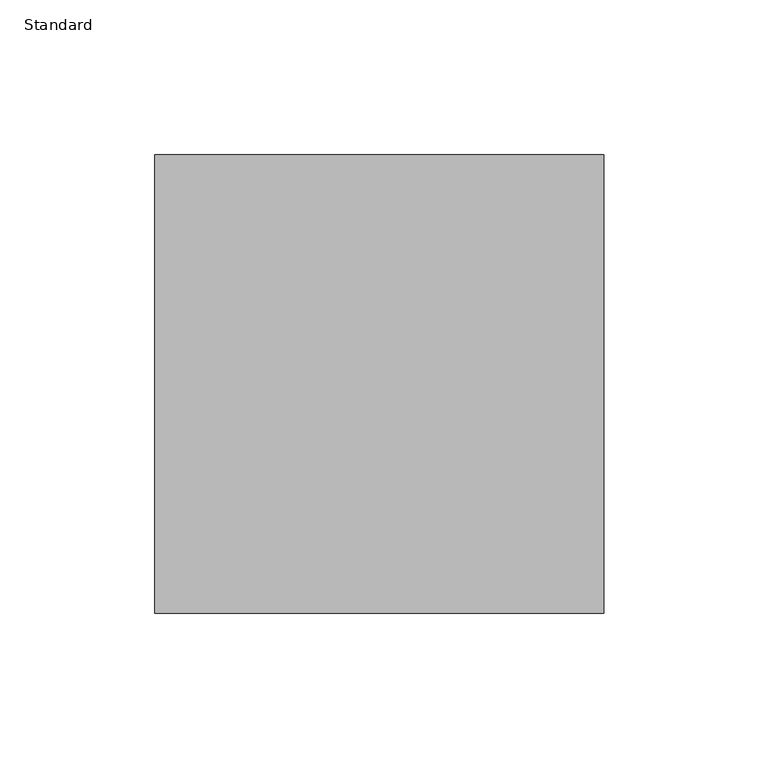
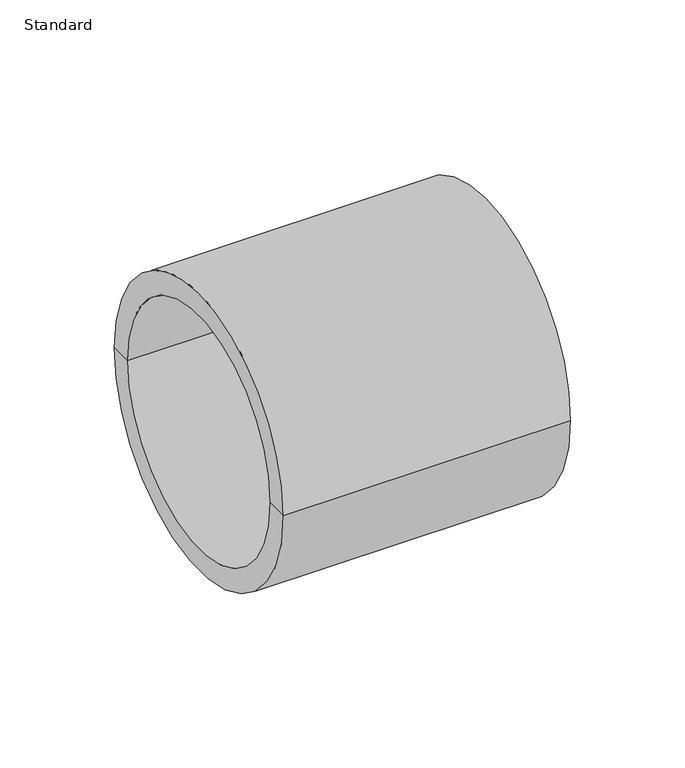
"""IFC4 building model written with IfcOpenShell, lengths in millimetres: pipe fitting geometry, Durapipe_PipeFitting_PVC_Socket : Standard."""

from ifc_helpers import new_model, si_unit, frame, origin, place, context, project, spatial, polyline, circle_curve, source, transform, mapped, element, save
from ifc_brep_helpers import plane_surface, cylinder_surface, revolved_surface, advanced_brep


def standard_f089f47d(model_context):
    return source(origin(), model_context, "Body", "AdvancedBrep", [
        advanced_brep(
        [(-72.5, -74.0, 0.0), (-72.5, 74.0, 0.0), (72.5, 74.0, 0.0), (72.5, -74.0, 0.0), (-72.5, -62.5, 0.0), (-72.5, 62.5, 0.0), (3.5, -55.5, 0.0), (3.5, 55.5, 0.0), (-3.5, 55.5, 0.0), (-3.5, -55.5, 0.0), (72.5, 62.5, 0.0), (72.5, -62.5, 0.0), (-3.5, -62.5, 0.0), (-3.5, 62.5, 0.0), (3.5, -62.5, 0.0), (3.5, 62.5, 0.0)],
        [
            (0, 1, circle_curve(frame((-72.5, 0.0, 0.0), z_axis=(1.0, 0.0, 0.0), x_axis=(0.0, 1.0, 0.0)), 74.0)),
            (1, 2),
            (2, 3, circle_curve(frame((72.5, 0.0, 0.0), z_axis=(-1.0, 0.0, 0.0), x_axis=(0.0, 1.0, 0.0)), 74.0)),
            (3, 0),
            (1, 0, circle_curve(frame((-72.5, 0.0, 0.0), z_axis=(1.0, 0.0, 0.0), x_axis=(0.0, 1.0, 0.0)), 74.0)),
            (3, 2, circle_curve(frame((72.5, 0.0, 0.0), z_axis=(-1.0, 0.0, 0.0), x_axis=(0.0, 1.0, 0.0)), 74.0)),
            (4, 5, circle_curve(frame((-72.5, 0.0, 0.0), z_axis=(1.0, 0.0, 0.0), x_axis=(0.0, 1.0, 0.0)), 62.5)),
            (5, 1),
            (0, 4),
            (5, 4, circle_curve(frame((-72.5, 0.0, 0.0), z_axis=(1.0, 0.0, 0.0), x_axis=(0.0, 1.0, 0.0)), 62.5)),
            (6, 7, circle_curve(frame((3.5, 0.0, 0.0), z_axis=(1.0, 0.0, 0.0), x_axis=(0.0, 1.0, 0.0)), 55.5)),
            (7, 8),
            (8, 9, circle_curve(frame((-3.5, 0.0, 0.0), z_axis=(-1.0, 0.0, 0.0), x_axis=(0.0, 1.0, 0.0)), 55.5)),
            (9, 6),
            (7, 6, circle_curve(frame((3.5, 0.0, 0.0), z_axis=(1.0, 0.0, 0.0), x_axis=(0.0, 1.0, 0.0)), 55.5)),
            (9, 8, circle_curve(frame((-3.5, 0.0, 0.0), z_axis=(-1.0, 0.0, 0.0), x_axis=(0.0, 1.0, 0.0)), 55.5)),
            (2, 10),
            (10, 11, circle_curve(frame((72.5, 0.0, 0.0), z_axis=(-1.0, 0.0, 0.0), x_axis=(0.0, 1.0, 0.0)), 62.5)),
            (11, 3),
            (11, 10, circle_curve(frame((72.5, 0.0, 0.0), z_axis=(-1.0, 0.0, 0.0), x_axis=(0.0, 1.0, 0.0)), 62.5)),
            (12, 13, circle_curve(frame((-3.5, 0.0, 0.0), z_axis=(1.0, 0.0, 0.0), x_axis=(0.0, 1.0, 0.0)), 62.5)),
            (13, 5),
            (4, 12),
            (13, 12, circle_curve(frame((-3.5, 0.0, 0.0), z_axis=(1.0, 0.0, 0.0), x_axis=(0.0, 1.0, 0.0)), 62.5)),
            (8, 13),
            (12, 9),
            (14, 15, circle_curve(frame((3.5, 0.0, 0.0), z_axis=(1.0, 0.0, 0.0), x_axis=(0.0, 1.0, 0.0)), 62.5)),
            (15, 7),
            (6, 14),
            (15, 14, circle_curve(frame((3.5, 0.0, 0.0), z_axis=(1.0, 0.0, 0.0), x_axis=(0.0, 1.0, 0.0)), 62.5)),
            (10, 15),
            (14, 11),
        ],
        [
            cylinder_surface(frame((-72.5, 0.0, 0.0), z_axis=(-1.0, 0.0, 0.0), x_axis=(0.0, 1.0, 0.0)), 74.0),
            plane_surface(frame((-72.5, 0.0, 0.0), z_axis=(-1.0, 0.0, 0.0), x_axis=(0.0, 1.0, 0.0))),
            revolved_surface(polyline([(-3.5, 55.5, 0.0), (3.5, 55.5, 0.0)]), (-72.5, 0.0, 0.0), (-1.0, 0.0, 0.0)),
            plane_surface(frame((72.5, 0.0, 0.0), z_axis=(1.0, 0.0, 0.0), x_axis=(0.0, 1.0, 0.0))),
            revolved_surface(polyline([(-72.5, 62.5, 0.0), (-3.5, 62.5, 0.0)]), (-72.5, 0.0, 0.0), (-1.0, 0.0, 0.0)),
            plane_surface(frame((-3.5, 0.0, 0.0), z_axis=(-1.0, 0.0, 0.0), x_axis=(0.0, 1.0, 0.0))),
            plane_surface(frame((3.5, 0.0, 0.0), z_axis=(1.0, 0.0, 0.0), x_axis=(0.0, 1.0, 0.0))),
            revolved_surface(polyline([(3.5, 62.5, 0.0), (72.5, 62.5, 0.0)]), (-72.5, 0.0, 0.0), (-1.0, 0.0, 0.0)),
        ],
        [
            (0, [[1, 2, 3, 4]]),
            (0, [[5, -4, 6, -2]]),
            (1, [[7, 8, -1, 9]]),
            (1, [[10, -9, -5, -8]]),
            (2, [[11, 12, 13, 14]]),
            (2, [[15, -14, 16, -12]]),
            (3, [[-3, 17, 18, 19]]),
            (3, [[-6, -19, 20, -17]]),
            (4, [[21, 22, -7, 23]]),
            (4, [[24, -23, -10, -22]]),
            (5, [[-13, 25, -21, 26]]),
            (5, [[-16, -26, -24, -25]]),
            (6, [[27, 28, -11, 29]]),
            (6, [[30, -29, -15, -28]]),
            (7, [[-18, 31, -27, 32]]),
            (7, [[-20, -32, -30, -31]]),
        ],
    ),
    ])


if __name__ == "__main__":
    model = new_model("IFC4")
    model_context = context("Model", 3, world=origin())
    ifc_project = project(units=[si_unit("LENGTHUNIT", "METRE", prefix="MILLI")], contexts=[model_context])
    site = spatial("IfcSite", under=ifc_project)
    building = spatial("IfcBuilding", under=site)
    placement = place(None, origin())
    standard_shape = standard_f089f47d(model_context)
    element("IfcPipeFitting", 1, ObjectType="Durapipe_PipeFitting_PVC_Socket : Standard", at=placement, inside=building, context=model_context, shape_type="MappedRepresentation", body=[
        mapped(standard_shape, transform((0.0, 0.0, 0.0), x_axis=(1.0, 0.0, 0.0), y_axis=(0.0, 1.0, 0.0), z_axis=(0.0, 0.0, 1.0))),
    ])
    save(model, "model.ifc")
